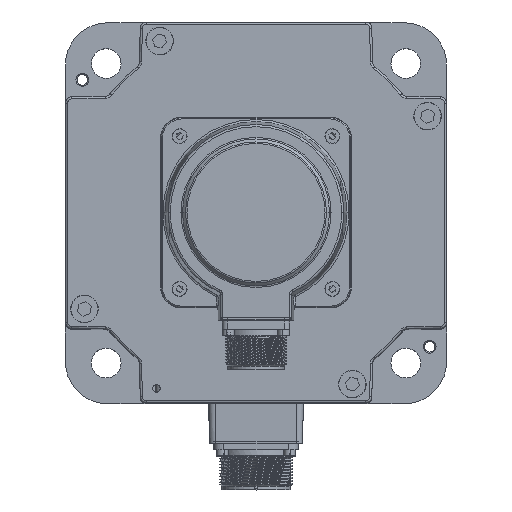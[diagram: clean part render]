
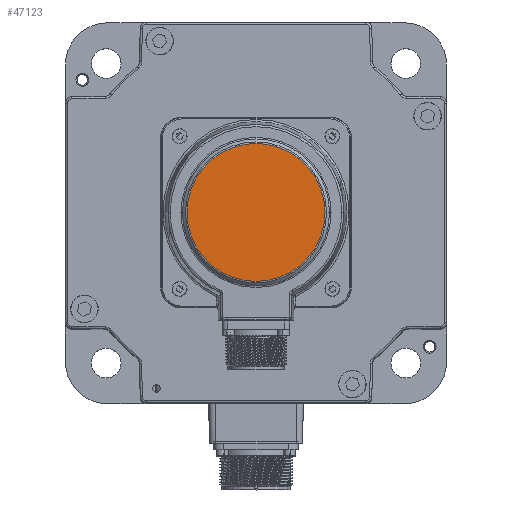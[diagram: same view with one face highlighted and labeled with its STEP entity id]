
A CAD part, top view. The second image highlights one B-rep face of the part: STEP entity #47123.
In plain terms, the highlighted planar face has unit normal (0, 0, 1).
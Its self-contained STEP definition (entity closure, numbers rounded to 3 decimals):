
#4416 = DIRECTION ( 'NONE',  ( 0., 0., 1. ) ) ;
#4850 = AXIS2_PLACEMENT_3D ( 'NONE', #58870, #54320, #16695 ) ;
#5417 = PLANE ( 'NONE',  #26618 ) ;
#6619 = FACE_OUTER_BOUND ( 'NONE', #58533, .T. ) ;
#7971 = CARTESIAN_POINT ( 'NONE',  ( -32.586, 0., 46.2 ) ) ;
#14241 = ORIENTED_EDGE ( 'NONE', *, *, #32189, .T. ) ;
#15510 = CARTESIAN_POINT ( 'NONE',  ( 0., 0., 46.2 ) ) ;
#16695 = DIRECTION ( 'NONE',  ( -1., 0., 0. ) ) ;
#17675 = AXIS2_PLACEMENT_3D ( 'NONE', #45409, #4416, #37127 ) ;
#24076 = DIRECTION ( 'NONE',  ( -1., 0., 0. ) ) ;
#26618 = AXIS2_PLACEMENT_3D ( 'NONE', #15510, #39041, #24076 ) ;
#27993 = VERTEX_POINT ( 'NONE', #57148 ) ;
#32189 = EDGE_CURVE ( 'NONE', #27993, #49828, #44887, .T. ) ;
#37127 = DIRECTION ( 'NONE',  ( -1., 0., 0. ) ) ;
#39041 = DIRECTION ( 'NONE',  ( 0., 0., 1. ) ) ;
#39134 = CIRCLE ( 'NONE', #17675, 32.586 ) ;
#44887 = CIRCLE ( 'NONE', #4850, 32.586 ) ;
#45409 = CARTESIAN_POINT ( 'NONE',  ( 0., 0., 46.2 ) ) ;
#46558 = ORIENTED_EDGE ( 'NONE', *, *, #56983, .T. ) ;
#47123 = ADVANCED_FACE ( 'NONE', ( #6619 ), #5417, .T. ) ;
#49828 = VERTEX_POINT ( 'NONE', #7971 ) ;
#54320 = DIRECTION ( 'NONE',  ( 0., 0., 1. ) ) ;
#56983 = EDGE_CURVE ( 'NONE', #49828, #27993, #39134, .T. ) ;
#57148 = CARTESIAN_POINT ( 'NONE',  ( 32.586, 0., 46.2 ) ) ;
#58533 = EDGE_LOOP ( 'NONE', ( #46558, #14241 ) ) ;
#58870 = CARTESIAN_POINT ( 'NONE',  ( 0., 0., 46.2 ) ) ;
